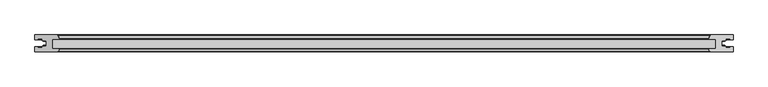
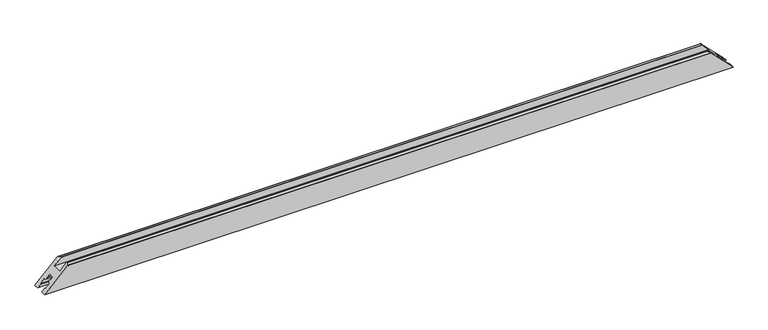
"""IFC4 building model written with IfcOpenShell, lengths in millimetres: proxy geometry, Weiku - Montante - Folha de correr 02.2.01.020 : Weiku - Montante - Folha de correr 02.2.01.020."""

import ifcopenshell
import ifcopenshell.guid

model = None  # the IFC model being written
_history = None  # IfcOwnerHistory: only IFC2X3 demands one
_inside = {}  # id of a spatial element -> (the spatial element, [elements in it])
_under = {}  # id of a project, library or spatial element -> (it, [spatial elements below it])
_declared = {}  # id of a project -> (the project, [libraries it declares])
_typed = {}  # id of a type object -> (the type object, [elements of that type])
_made_of = {}  # id of a material, layer set ... -> (it, [elements and type objects made of it])


def new_model(schema):
    """Start an empty IFC model of exactly this schema.

    Asked for "IFC4X3", IfcOpenShell would pick the latest addendum, in which some entities
    have other attributes; the version numbers below select the first issue.
    IFC2X3 requires an IfcOwnerHistory on every rooted entity: one is made here for all.
    """
    global model, _history
    if schema == "IFC4X3":
        model = ifcopenshell.file(schema_version=(4, 3, 0, 0))
    else:
        model = ifcopenshell.file(schema=schema)
    _inside.clear()
    _under.clear()
    _declared.clear()
    _typed.clear()
    _made_of.clear()
    _history = None
    if model.schema == "IFC2X3":
        org = make("IfcOrganization", Name="unknown")
        user = make(
            "IfcPersonAndOrganization",
            ThePerson=make("IfcPerson", FamilyName="unknown"),
            TheOrganization=org,
        )
        app = make(
            "IfcApplication",
            ApplicationDeveloper=org,
            Version="unknown",
            ApplicationFullName="unknown",
            ApplicationIdentifier="unknown",
        )
        _history = make(
            "IfcOwnerHistory",
            OwningUser=user,
            OwningApplication=app,
            ChangeAction="ADDED",
            CreationDate=0,
        )
    return model


def make(cls, **values):
    """One entity of the class cls with the attributes given. An attribute that is None is left unset."""
    return model.create_entity(
        cls, **{name: value for name, value in values.items() if value is not None}
    )


def rooted(cls, **values):
    """An entity with a GlobalId (a new one), such as an element, a storey or a relation."""
    return make(cls, GlobalId=ifcopenshell.guid.new(), OwnerHistory=_history, **values)


def si_unit(unit_type, name, prefix=None):
    """IfcSIUnit, for example si_unit("LENGTHUNIT", "METRE", prefix="MILLI")."""
    return make("IfcSIUnit", UnitType=unit_type, Prefix=prefix, Name=name)


def assignment(units):
    """IfcUnitAssignment: the units of a project."""
    return None if units is None else make("IfcUnitAssignment", Units=units)


def point(xyz):
    """IfcCartesianPoint."""
    return None if xyz is None else make("IfcCartesianPoint", Coordinates=xyz)


def direction(xyz):
    """IfcDirection."""
    return None if xyz is None else make("IfcDirection", DirectionRatios=xyz)


def frame(location, z_axis=None, x_axis=None):
    """IfcAxis2Placement3D, a coordinate frame: its origin and axes. An axis left out is left unset."""
    return make(
        "IfcAxis2Placement3D",
        Location=point(location),
        Axis=direction(z_axis),
        RefDirection=direction(x_axis),
    )


def origin():
    """The frame at (0, 0, 0) with its axes left unset."""
    return frame((0.0, 0.0, 0.0))


def place(relative_to, where):
    """IfcLocalPlacement: puts the frame where relative to a parent placement (None: the world)."""
    return make(
        "IfcLocalPlacement", PlacementRelTo=relative_to, RelativePlacement=where
    )


def context(
    kind, dimensions, precision=None, world=None, true_north=None, identifier=None
):
    """IfcGeometricRepresentationContext, for example the 3D "Model" context."""
    return make(
        "IfcGeometricRepresentationContext",
        ContextIdentifier=identifier,
        ContextType=kind,
        CoordinateSpaceDimension=dimensions,
        Precision=precision,
        WorldCoordinateSystem=world,
        TrueNorth=true_north,
    )


def project(units=None, contexts=None):
    """IfcProject with its units and contexts."""
    return rooted(
        "IfcProject",
        Name="project",
        RepresentationContexts=contexts,
        UnitsInContext=assignment(units),
    )


def spatial(cls, under=None, at=None, **own):
    """A site, building, storey or space (cls), placed at a placement, below another one or the project."""
    s = rooted(cls, ObjectPlacement=at, **own)
    if under is not None:
        _under.setdefault(under.id(), (under, []))[1].append(s)
    return s


def ellipse_curve(where, semi_axis1, semi_axis2):
    """IfcEllipse in the frame where."""
    return make(
        "IfcEllipse", Position=where, SemiAxis1=semi_axis1, SemiAxis2=semi_axis2
    )


def shape(context_of_items, identifier, shape_type, items):
    """IfcShapeRepresentation: the items that make up one representation, for example the "Body"."""
    return make(
        "IfcShapeRepresentation",
        ContextOfItems=context_of_items,
        RepresentationIdentifier=identifier,
        RepresentationType=shape_type,
        Items=items,
    )


def source(mapping_origin, context_of_items, identifier, shape_type, items):
    """IfcRepresentationMap: a shape defined once, which mapped items show again and again."""
    return make(
        "IfcRepresentationMap",
        MappingOrigin=mapping_origin,
        MappedRepresentation=shape(context_of_items, identifier, shape_type, items),
    )


def transform(
    local_origin,
    x_axis=None,
    y_axis=None,
    z_axis=None,
    scale=None,
    scale2=None,
    scale3=None,
    uniform=True,
):
    """IfcCartesianTransformationOperator3D, or its non-uniform kind. x_axis, y_axis, z_axis: its Axis1, 2, 3."""
    if uniform:
        return make(
            "IfcCartesianTransformationOperator3D",
            Axis1=direction(x_axis),
            Axis2=direction(y_axis),
            LocalOrigin=point(local_origin),
            Scale=scale,
            Axis3=direction(z_axis),
        )
    return make(
        "IfcCartesianTransformationOperator3DnonUniform",
        Axis1=direction(x_axis),
        Axis2=direction(y_axis),
        LocalOrigin=point(local_origin),
        Scale=scale,
        Axis3=direction(z_axis),
        Scale2=scale2,
        Scale3=scale3,
    )


def mapped(mapping_source, mapping_target):
    """IfcMappedItem: shows the shape of a source again, moved by a transform."""
    return make(
        "IfcMappedItem", MappingSource=mapping_source, MappingTarget=mapping_target
    )


def made_of(thing, what):
    """Note that an element or type object is made of a material, layer set ...; save() writes the relation."""
    if what is not None:
        _made_of.setdefault(what.id(), (what, []))[1].append(thing)
    return thing


def element(
    cls,
    number,
    at=None,
    inside=None,
    cuts=None,
    type_object=None,
    material=None,
    context=None,
    identifier="Body",
    shape_type=None,
    held_by="IfcProductDefinitionShape",
    body=None,
    shapes=None,
    **own,
):
    """One element of the class cls, such as IfcWall. Its Tag is "e" and its number.

    at: its placement. inside: the storey or other place that contains it. cuts: it is an
    opening in that element (IfcRelVoidsElement). A single representation is given by context,
    identifier, shape_type and body (its items); several are given by shapes. held_by: the class
    of the entity that holds the representations. save() writes the other relations.
    """
    e = rooted(cls, Tag="e%d" % number, ObjectPlacement=at, **own)
    if body is not None:
        shapes = [shape(context, identifier, shape_type, body)]
    if shapes is not None:
        e.Representation = make(held_by, Representations=shapes)
    if inside is not None:
        _inside.setdefault(inside.id(), (inside, []))[1].append(e)
    if cuts is not None:
        rooted(
            "IfcRelVoidsElement", RelatingBuildingElement=cuts, RelatedOpeningElement=e
        )
    if type_object is not None:
        _typed.setdefault(type_object.id(), (type_object, []))[1].append(e)
    return made_of(e, material)


def aggregate(whole, parts):
    """IfcRelAggregates: a whole, such as a stair, and the parts it consists of."""
    return rooted("IfcRelAggregates", RelatingObject=whole, RelatedObjects=parts)


def save(model, path):
    """Write the relations noted so far, then the file.

    IfcRelAggregates (storeys below a building ...), IfcRelContainedInSpatialStructure (elements
    in a storey), IfcRelDefinesByType, IfcRelAssociatesMaterial and IfcRelDeclares: one each for
    every whole, place, type object, material and project.
    """
    for whole, parts in _under.values():
        aggregate(whole, parts)
    for where, things in _inside.values():
        rooted(
            "IfcRelContainedInSpatialStructure",
            RelatedElements=things,
            RelatingStructure=where,
        )
    for kind, things in _typed.values():
        rooted("IfcRelDefinesByType", RelatedObjects=things, RelatingType=kind)
    for what, things in _made_of.values():
        rooted("IfcRelAssociatesMaterial", RelatedObjects=things, RelatingMaterial=what)
    for by, libraries in _declared.values():
        rooted("IfcRelDeclares", RelatingContext=by, RelatedDefinitions=libraries)
    model.write(path)


def plane_surface(at):
    """IfcPlane: the flat surface through the origin of the frame at, square to its z axis."""
    return make("IfcPlane", Position=at)


def cylinder_surface(at, radius):
    """IfcCylindricalSurface: all points at the distance radius from the z axis of the frame at."""
    return make("IfcCylindricalSurface", Position=at, Radius=radius)


def advanced_brep(points, edges, surfaces, faces):
    """IfcAdvancedBrep: a solid bounded by faces that lie on surfaces and meet in shared edges.

    An edge is (start, end): straight between two places in points (the first is 0);
    or (start, end, curve); or (start, end, curve, False) where it runs against its curve.
    A face is (place in surfaces, loops), or (place, loops, False) where it looks against
    its surface's normal. A loop lists edges by number (the first is 1), with a minus sign
    where the edge is run from its end to its start. The first loop is the outer one.
    """
    corners = [point(p) for p in points]
    vertices = [make("IfcVertexPoint", VertexGeometry=c) for c in corners]
    made = []
    for start, end, *more in edges:
        made.append(
            make(
                "IfcEdgeCurve",
                EdgeStart=vertices[start],
                EdgeEnd=vertices[end],
                EdgeGeometry=more[0] if more else make("IfcPolyline", Points=[corners[start], corners[end]]),
                SameSense=more[1] if len(more) > 1 else True,
            )
        )
    hull = []
    for where, loops, *sense in faces:
        bounds = []
        for j, loop in enumerate(loops):
            ring = [make("IfcOrientedEdge", EdgeElement=made[abs(k) - 1], Orientation=k > 0) for k in loop]
            bounds.append(
                make(
                    "IfcFaceOuterBound" if j == 0 else "IfcFaceBound",
                    Bound=make("IfcEdgeLoop", EdgeList=ring),
                    Orientation=True,
                )
            )
        hull.append(make("IfcAdvancedFace", Bounds=bounds, FaceSurface=surfaces[where], SameSense=sense[0] if sense else True))
    return make("IfcAdvancedBrep", Outer=make("IfcClosedShell", CfsFaces=hull))


def generic_models_5e03c372(model_context):
    return source(origin(), model_context, "Body", "AdvancedBrep", [
        advanced_brep(
        [(1031.5, 50.0, 0.0), (-1031.5, 50.0, 0.0), (-965.0004942, 50.0, 66.4995058), (965.0004942, 50.0, 66.4995058), (1031.5, 35.5, 0.0), (-1031.5, 35.5, 0.0), (-1031.5, 0.0, 0.0), (1031.5, 0.0, 0.0), (963.9879875, 0.0, 67.5120125), (-963.9879875, 0.0, 67.5120125), (-1022.9, 35.5, 8.6), (-1022.9, 38.3, 8.6), (-1009.7, 38.3, 21.8), (-1009.7, 33.1, 21.8), (-1007.3524152, 33.1, 24.1475848), (-1007.5273926, 31.1, 23.9726074), (-1004.7, 31.1, 26.8), (-1004.7, 33.1, 26.8), (-997.5, 33.1, 34.0), (-997.5, 16.9, 34.0), (-1004.7, 16.9, 26.8), (-1004.7, 18.9, 26.8), (-1007.5273926, 18.9, 23.9726074), (-1007.3524152, 16.9, 24.1475848), (-1009.7, 16.9, 21.8), (-1009.7, 11.7, 21.8), (-1022.9, 11.7, 8.6), (-1022.9, 14.5, 8.6), (-1031.5, 14.5, 0.0), (-963.0940268, 0.5518546, 68.4059732), (-959.5520406, 7.617411, 71.9479594), (-960.7141895, 9.5, 70.7858105), (-980.5007611, 9.5, 50.9992389), (-980.5007611, 37.5, 50.9992389), (-960.0007611, 37.5, 71.4992389), (-959.5177981, 38.1294095, 71.9822019), (-962.1027168, 47.7764571, 69.3972832), (962.1027168, 47.7764571, 69.3972832), (959.5177981, 38.1294095, 71.9822019), (960.0007611, 37.5, 71.4992389), (980.5007611, 37.5, 50.9992389), (980.5007611, 9.5, 50.9992389), (960.7141895, 9.5, 70.7858105), (959.5520406, 7.617411, 71.9479594), (963.0940268, 0.5518546, 68.4059732), (1031.5, 14.5, 0.0), (1022.9, 14.5, 8.6), (1022.9, 11.7, 8.6), (1009.7, 11.7, 21.8), (1009.7, 16.9, 21.8), (1007.3524152, 16.9, 24.1475848), (1007.5273926, 18.9, 23.9726074), (1004.7, 18.9, 26.8), (1004.7, 16.9, 26.8), (997.5, 16.9, 34.0), (997.5, 33.1, 34.0), (1004.7, 33.1, 26.8), (1004.7, 31.1, 26.8), (1007.5273926, 31.1, 23.9726074), (1007.3524152, 33.1, 24.1475848), (1009.7, 33.1, 21.8), (1009.7, 38.3, 21.8), (1022.9, 38.3, 8.6), (1022.9, 35.5, 8.6)],
        [
            (0, 1),
            (1, 2),
            (2, 3),
            (3, 0),
            (0, 4),
            (4, 5),
            (5, 1),
            (6, 7),
            (7, 8),
            (8, 9),
            (9, 6),
            (5, 10),
            (10, 11),
            (11, 12),
            (12, 13),
            (13, 14),
            (14, 15),
            (15, 16),
            (16, 17),
            (17, 18),
            (18, 19),
            (19, 20),
            (20, 21),
            (21, 22),
            (22, 23),
            (23, 24),
            (24, 25),
            (25, 26),
            (26, 27),
            (27, 28),
            (28, 6),
            (9, 29, ellipse_curve(frame((-963.9879875, 1.0, 67.5120125), z_axis=(-0.7071067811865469, 0.0, 0.7071067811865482), x_axis=(-0.707106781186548, 0.0, -0.7071067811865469)), 1.4142136, 1.0)),
            (29, 30),
            (30, 31, ellipse_curve(frame((-960.7141895, 8.2, 70.7858105), z_axis=(-0.7071067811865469, 0.0, 0.7071067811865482), x_axis=(-0.707106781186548, 0.0, -0.7071067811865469)), 1.8384776, 1.3)),
            (31, 32),
            (32, 33),
            (33, 34),
            (34, 35, ellipse_curve(frame((-960.0007611, 38.0, 71.4992389), z_axis=(-0.7071067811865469, 0.0, 0.7071067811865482), x_axis=(-0.707106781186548, 0.0, -0.7071067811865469)), 0.7071068, 0.5)),
            (35, 36),
            (36, 2, ellipse_curve(frame((-965.0004942, 47.0, 66.4995058), z_axis=(-0.7071067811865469, 0.0, 0.7071067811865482), x_axis=(-0.707106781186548, 0.0, -0.7071067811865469)), 4.2426407, 3.0)),
            (3, 37, ellipse_curve(frame((965.0004942, 47.0, 66.4995058), z_axis=(0.7071067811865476, 0.0, 0.7071067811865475), x_axis=(-0.7071067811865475, 0.0, 0.7071067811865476)), 4.2426407, 3.0)),
            (37, 38),
            (38, 39, ellipse_curve(frame((960.0007611, 38.0, 71.4992389), z_axis=(0.7071067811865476, 0.0, 0.7071067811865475), x_axis=(-0.7071067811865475, 0.0, 0.7071067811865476)), 0.7071068, 0.5)),
            (39, 40),
            (40, 41),
            (41, 42),
            (42, 43, ellipse_curve(frame((960.7141895, 8.2, 70.7858105), z_axis=(0.7071067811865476, 0.0, 0.7071067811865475), x_axis=(-0.7071067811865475, 0.0, 0.7071067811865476)), 1.8384776, 1.3)),
            (43, 44),
            (44, 8, ellipse_curve(frame((963.9879875, 1.0, 67.5120125), z_axis=(0.7071067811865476, 0.0, 0.7071067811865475), x_axis=(-0.7071067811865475, 0.0, 0.7071067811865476)), 1.4142136, 1.0)),
            (7, 45),
            (45, 46),
            (46, 47),
            (47, 48),
            (48, 49),
            (49, 50),
            (50, 51),
            (51, 52),
            (52, 53),
            (53, 54),
            (54, 55),
            (55, 56),
            (56, 57),
            (57, 58),
            (58, 59),
            (59, 60),
            (60, 61),
            (61, 62),
            (62, 63),
            (63, 4),
            (44, 29),
            (43, 30),
            (42, 31),
            (41, 32),
            (40, 33),
            (39, 34),
            (38, 35),
            (37, 36),
            (63, 10),
            (62, 11),
            (61, 12),
            (60, 13),
            (59, 14),
            (58, 15),
            (57, 16),
            (56, 17),
            (55, 18),
            (54, 19),
            (53, 20),
            (52, 21),
            (51, 22),
            (50, 23),
            (49, 24),
            (48, 25),
            (47, 26),
            (46, 27),
            (45, 28),
        ],
        [
            plane_surface(frame((-1031.5, 50.0, 66.4995058), z_axis=(0.0, 1.0, 0.0), x_axis=(1.0, 0.0, 0.0))),
            plane_surface(frame((-1031.5, 50.0, 0.0), z_axis=(0.0, 0.0, -1.0), x_axis=(1.0, 0.0, 0.0))),
            plane_surface(frame((-1031.5, 0.0, 0.0), z_axis=(0.0, -1.0, 0.0), x_axis=(1.0, 0.0, 0.0))),
            plane_surface(frame((-1059.7842712, 0.0, -28.2842712), z_axis=(-0.7071067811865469, 0.0, 0.7071067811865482), x_axis=(0.0, 1.0, 0.0))),
            plane_surface(frame((951.5, 0.0, 80.0), z_axis=(0.7071067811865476, 0.0, 0.7071067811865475), x_axis=(0.0, 1.0, 0.0))),
            cylinder_surface(frame((-1031.5, 1.0, 67.5120125), z_axis=(-1.0, 0.0, 0.0), x_axis=(0.0, 1.0, 0.0)), 1.0),
            plane_surface(frame((-1031.5, 0.5518546, 68.4059732), z_axis=(0.0, -0.4481453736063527, 0.8939606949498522), x_axis=(1.0, 0.0, 0.0))),
            cylinder_surface(frame((-1031.5, 8.2, 70.7858105), z_axis=(-1.0, 0.0, 0.0), x_axis=(0.0, 1.0, 0.0)), 1.3),
            plane_surface(frame((-1031.5, 9.5, 70.7858105), z_axis=(0.0, 1.0, 0.0), x_axis=(1.0, 0.0, 0.0))),
            plane_surface(frame((-1031.5, 9.5, 50.9992389), z_axis=(0.0, 0.0, 1.0), x_axis=(1.0, 0.0, 0.0))),
            plane_surface(frame((-1031.5, 37.5, 50.9992389), z_axis=(0.0, -1.0, 0.0), x_axis=(1.0, 0.0, 0.0))),
            cylinder_surface(frame((-1031.5, 38.0, 71.4992389), z_axis=(-1.0, 0.0, 0.0), x_axis=(0.0, 1.0, 0.0)), 0.5),
            plane_surface(frame((-1031.5, 38.1294095, 71.9822019), z_axis=(0.0, 0.2588190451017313, 0.9659258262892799), x_axis=(1.0, 0.0, 0.0))),
            cylinder_surface(frame((-1031.5, 47.0, 66.4995058), z_axis=(-1.0, 0.0, 0.0), x_axis=(0.0, 1.0, 0.0)), 3.0),
            plane_surface(frame((-1031.5, 35.5, 0.0), z_axis=(0.0, -1.0, 0.0), x_axis=(1.0, 0.0, 0.0))),
            plane_surface(frame((-1031.5, 35.5, 8.6), z_axis=(0.0, 0.0, 1.0), x_axis=(1.0, 0.0, 0.0))),
            plane_surface(frame((-1031.5, 38.3, 8.6), z_axis=(0.0, -1.0, 0.0), x_axis=(1.0, 0.0, 0.0))),
            plane_surface(frame((-1031.5, 38.3, 21.8), z_axis=(0.0, 0.0, -1.0), x_axis=(1.0, 0.0, 0.0))),
            plane_surface(frame((-1031.5, 33.1, 21.8), z_axis=(0.0, -1.0, 0.0), x_axis=(1.0, 0.0, 0.0))),
            plane_surface(frame((-1031.5, 33.1, 24.1475848), z_axis=(0.0, 0.08715574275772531, -0.9961946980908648), x_axis=(1.0, 0.0, 0.0))),
            plane_surface(frame((-1031.5, 31.1, 23.9726074), z_axis=(0.0, -1.0, 0.0), x_axis=(1.0, 0.0, 0.0))),
            plane_surface(frame((-1031.5, 31.1, 26.8), z_axis=(0.0, 0.0, 1.0), x_axis=(1.0, 0.0, 0.0))),
            plane_surface(frame((-1031.5, 33.1, 26.8), z_axis=(0.0, -1.0, 0.0), x_axis=(1.0, 0.0, 0.0))),
            plane_surface(frame((-1031.5, 33.1, 34.0), z_axis=(0.0, 0.0, -1.0), x_axis=(1.0, 0.0, 0.0))),
            plane_surface(frame((-1031.5, 16.9, 34.0), z_axis=(0.0, 1.0, 0.0), x_axis=(1.0, 0.0, 0.0))),
            plane_surface(frame((-1031.5, 16.9, 26.8), z_axis=(0.0, 0.0, 1.0), x_axis=(1.0, 0.0, 0.0))),
            plane_surface(frame((-1031.5, 18.9, 26.8), z_axis=(0.0, 1.0, 0.0), x_axis=(1.0, 0.0, 0.0))),
            plane_surface(frame((-1031.5, 18.9, 23.9726074), z_axis=(0.0, -0.08715574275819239, -0.9961946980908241), x_axis=(1.0, 0.0, 0.0))),
            plane_surface(frame((-1031.5, 16.9, 24.1475848), z_axis=(0.0, 1.0, 0.0), x_axis=(1.0, 0.0, 0.0))),
            plane_surface(frame((-1031.5, 16.9, 21.8), z_axis=(0.0, 0.0, -1.0), x_axis=(1.0, 0.0, 0.0))),
            plane_surface(frame((-1031.5, 11.7, 21.8), z_axis=(0.0, 1.0, 0.0), x_axis=(1.0, 0.0, 0.0))),
            plane_surface(frame((-1031.5, 11.7, 8.6), z_axis=(0.0, 0.0, 1.0), x_axis=(1.0, 0.0, 0.0))),
            plane_surface(frame((-1031.5, 14.5, 8.6), z_axis=(0.0, 1.0, 0.0), x_axis=(1.0, 0.0, 0.0))),
            plane_surface(frame((-1031.5, 14.5, 0.0), z_axis=(0.0, 0.0, -1.0), x_axis=(1.0, 0.0, 0.0))),
        ],
        [
            (0, [[1, 2, 3, 4]]),
            (1, [[-1, 5, 6, 7]]),
            (2, [[8, 9, 10, 11]]),
            (3, [[-2, -7, 12, 13, 14, 15, 16, 17, 18, 19, 20, 21, 22, 23, 24, 25, 26, 27, 28, 29, 30, 31, -11, 32, 33, 34, 35, 36, 37, 38, 39, 40]]),
            (4, [[-4, 41, 42, 43, 44, 45, 46, 47, 48, 49, -9, 50, 51, 52, 53, 54, 55, 56, 57, 58, 59, 60, 61, 62, 63, 64, 65, 66, 67, 68, 69, -5]]),
            (5, [[-32, -10, -49, 70]]),
            (6, [[-33, -70, -48, 71]]),
            (7, [[-34, -71, -47, 72]]),
            (8, [[-35, -72, -46, 73]]),
            (9, [[-36, -73, -45, 74]]),
            (10, [[-37, -74, -44, 75]]),
            (11, [[-38, -75, -43, 76]]),
            (12, [[-39, -76, -42, 77]]),
            (13, [[-40, -77, -41, -3]]),
            (14, [[-6, -69, 78, -12]]),
            (15, [[-13, -78, -68, 79]]),
            (16, [[-14, -79, -67, 80]]),
            (17, [[-15, -80, -66, 81]]),
            (18, [[-16, -81, -65, 82]]),
            (19, [[-17, -82, -64, 83]]),
            (20, [[-18, -83, -63, 84]]),
            (21, [[-19, -84, -62, 85]]),
            (22, [[-20, -85, -61, 86]]),
            (23, [[-21, -86, -60, 87]]),
            (24, [[-22, -87, -59, 88]]),
            (25, [[-23, -88, -58, 89]]),
            (26, [[-24, -89, -57, 90]]),
            (27, [[-25, -90, -56, 91]]),
            (28, [[-26, -91, -55, 92]]),
            (29, [[-27, -92, -54, 93]]),
            (30, [[-28, -93, -53, 94]]),
            (31, [[-29, -94, -52, 95]]),
            (32, [[96, -30, -95, -51]]),
            (33, [[-8, -31, -96, -50]]),
        ],
    ),
    ])


if __name__ == "__main__":
    model = new_model("IFC4")
    model_context = context("Model", 3, world=origin())
    ifc_project = project(units=[si_unit("LENGTHUNIT", "METRE", prefix="MILLI")], contexts=[model_context])
    site = spatial("IfcSite", under=ifc_project)
    building = spatial("IfcBuilding", under=site)
    placement = place(None, origin())
    generic_models_shape = generic_models_5e03c372(model_context)
    element("IfcBuildingElementProxy", 1, Name="Weiku - Montante - Folha de correr 02.2.01.020 : Weiku - Montante - Folha de correr 02.2.01.020", ObjectType="Weiku - Montante - Folha de correr 02.2.01.020 : Weiku - Montante - Folha de correr 02.2.01.020", at=placement, inside=building, context=model_context, shape_type="MappedRepresentation", body=[
        mapped(generic_models_shape, transform((0.0, 0.0, 0.0), x_axis=(1.0, 0.0, 0.0), y_axis=(0.0, 1.0, 0.0), z_axis=(0.0, 0.0, 1.0))),
    ])
    save(model, "model.ifc")
